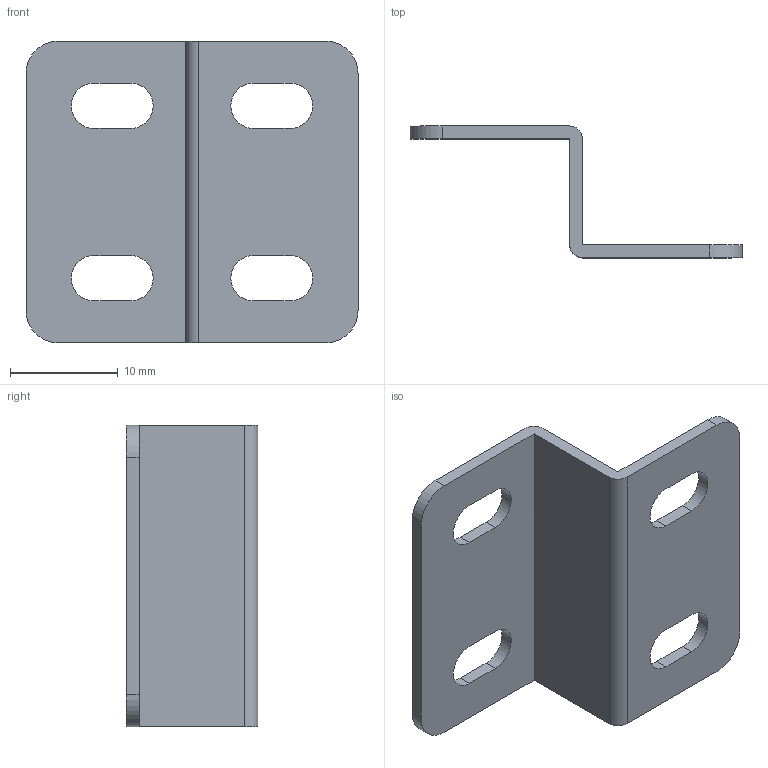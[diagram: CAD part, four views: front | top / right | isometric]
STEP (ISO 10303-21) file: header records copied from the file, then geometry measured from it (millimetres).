
FILE_DESCRIPTION (( 'STEP AP203' ), '1' );
FILE_NAME ('HT10082.STEP', '2021-03-30T01:02:21', ( 'Users' ), ( 'Microsoft' ), 'SwSTEP 2.0', 'SolidWorks 2018', '' );
FILE_SCHEMA (( 'CONFIG_CONTROL_DESIGN' ));
Length unit declared in the file: millimetre
Products named in the file (1): HT10082
Bounding box: 30.8 x 12.2 x 28 mm (x, y, z)
Volume: 1242.9 mm3; surface area: 2327.5 mm2
Topology: 1 solids, 1 shells, 32 faces, 90 edges, 60 vertices
Faces by surface type: plane 18, cylinder 14
Entity records: 1135 total; most frequent: DIRECTION 184, CARTESIAN_POINT 183, ORIENTED_EDGE 180, EDGE_CURVE 90, LINE 62, VECTOR 62, AXIS2_PLACEMENT_3D 61, VERTEX_POINT 60
